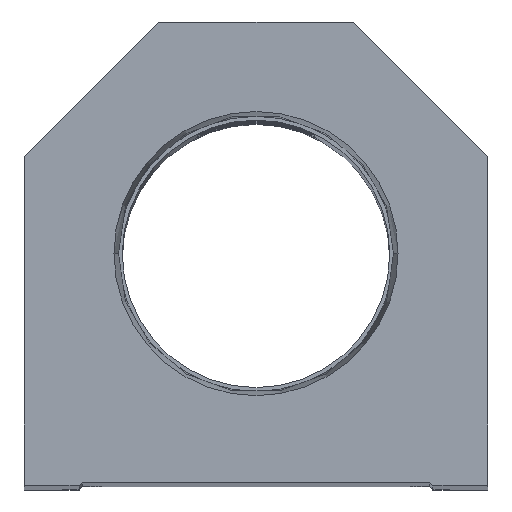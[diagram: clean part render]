
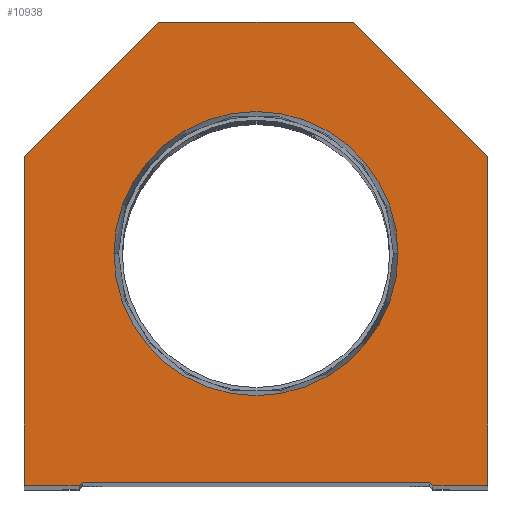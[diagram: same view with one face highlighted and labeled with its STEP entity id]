
A CAD part, top view. The second image highlights one B-rep face of the part: STEP entity #10938.
In plain terms, the highlighted planar face has unit normal (0, 0, 1).
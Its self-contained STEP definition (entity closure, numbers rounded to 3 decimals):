
#318 = DIRECTION ( 'NONE',  ( 0., 0., 1. ) ) ;
#612 = EDGE_CURVE ( 'NONE', #13962, #7568, #10167, .T. ) ;
#783 = CARTESIAN_POINT ( 'NONE',  ( 28.6, 0.5, 0. ) ) ;
#882 = EDGE_CURVE ( 'NONE', #15622, #6065, #17693, .T. ) ;
#1156 = CARTESIAN_POINT ( 'NONE',  ( 23.374, 38.1, 0. ) ) ;
#1219 = EDGE_CURVE ( 'NONE', #16297, #13131, #13249, .T. ) ;
#1503 = EDGE_LOOP ( 'NONE', ( #7364, #13965, #5378, #7070, #8163, #1601, #5861, #8118, #9640, #2906 ) ) ;
#1533 = VERTEX_POINT ( 'NONE', #11238 ) ;
#1601 = ORIENTED_EDGE ( 'NONE', *, *, #2819, .T. ) ;
#1683 = FACE_BOUND ( 'NONE', #4643, .T. ) ;
#1692 = VERTEX_POINT ( 'NONE', #17330 ) ;
#1719 = LINE ( 'NONE', #4746, #2737 ) ;
#1877 = VERTEX_POINT ( 'NONE', #9053 ) ;
#1908 = CARTESIAN_POINT ( 'NONE',  ( 0., 38.1, 0. ) ) ;
#2427 = CARTESIAN_POINT ( 'NONE',  ( 0., 38.1, 0. ) ) ;
#2561 = LINE ( 'NONE', #18032, #10380 ) ;
#2737 = VECTOR ( 'NONE', #7404, 1000. ) ;
#2819 = EDGE_CURVE ( 'NONE', #1533, #17525, #7849, .T. ) ;
#2827 = VERTEX_POINT ( 'NONE', #783 ) ;
#2906 = ORIENTED_EDGE ( 'NONE', *, *, #16645, .T. ) ;
#3194 = DIRECTION ( 'NONE',  ( -0.707, 0.707, 0. ) ) ;
#4086 = DIRECTION ( 'NONE',  ( 0., -1., 0. ) ) ;
#4591 = VECTOR ( 'NONE', #10779, 1000. ) ;
#4643 = EDGE_LOOP ( 'NONE', ( #6689, #5579 ) ) ;
#4746 = CARTESIAN_POINT ( 'NONE',  ( 28.6, 0., 0. ) ) ;
#4895 = CARTESIAN_POINT ( 'NONE',  ( 38.1, 54.1, 0. ) ) ;
#5061 = EDGE_CURVE ( 'NONE', #7568, #2827, #2561, .T. ) ;
#5162 = DIRECTION ( 'NONE',  ( -1., 0., 0. ) ) ;
#5246 = CARTESIAN_POINT ( 'NONE',  ( 16., 76.2, 0. ) ) ;
#5378 = ORIENTED_EDGE ( 'NONE', *, *, #5061, .T. ) ;
#5433 = VECTOR ( 'NONE', #4086, 1000. ) ;
#5539 = CARTESIAN_POINT ( 'NONE',  ( -28.6, 0.5, 0. ) ) ;
#5579 = ORIENTED_EDGE ( 'NONE', *, *, #11907, .F. ) ;
#5637 = AXIS2_PLACEMENT_3D ( 'NONE', #17054, #10137, #15711 ) ;
#5830 = EDGE_CURVE ( 'NONE', #1692, #13962, #17207, .T. ) ;
#5861 = ORIENTED_EDGE ( 'NONE', *, *, #9118, .T. ) ;
#6065 = VERTEX_POINT ( 'NONE', #6957 ) ;
#6153 = DIRECTION ( 'NONE',  ( 0.707, -0.707, 0. ) ) ;
#6226 = AXIS2_PLACEMENT_3D ( 'NONE', #2427, #13605, #16960 ) ;
#6441 = LINE ( 'NONE', #14952, #4591 ) ;
#6487 = CARTESIAN_POINT ( 'NONE',  ( 38.1, 0., 0. ) ) ;
#6689 = ORIENTED_EDGE ( 'NONE', *, *, #1219, .F. ) ;
#6957 = CARTESIAN_POINT ( 'NONE',  ( -16., 76.2, 0. ) ) ;
#7070 = ORIENTED_EDGE ( 'NONE', *, *, #9720, .T. ) ;
#7187 = VECTOR ( 'NONE', #11642, 1000. ) ;
#7248 = CARTESIAN_POINT ( 'NONE',  ( -29.1, 0., 0. ) ) ;
#7275 = FACE_OUTER_BOUND ( 'NONE', #1503, .T. ) ;
#7364 = ORIENTED_EDGE ( 'NONE', *, *, #5830, .T. ) ;
#7404 = DIRECTION ( 'NONE',  ( 1., 0., 0. ) ) ;
#7518 = LINE ( 'NONE', #17016, #10631 ) ;
#7568 = VERTEX_POINT ( 'NONE', #5539 ) ;
#7849 = LINE ( 'NONE', #6487, #8028 ) ;
#8028 = VECTOR ( 'NONE', #17642, 1000. ) ;
#8118 = ORIENTED_EDGE ( 'NONE', *, *, #882, .T. ) ;
#8163 = ORIENTED_EDGE ( 'NONE', *, *, #13323, .T. ) ;
#8288 = VECTOR ( 'NONE', #14299, 1000. ) ;
#8544 = EDGE_CURVE ( 'NONE', #6065, #11910, #6441, .T. ) ;
#9053 = CARTESIAN_POINT ( 'NONE',  ( 29.1, 0., 0. ) ) ;
#9118 = EDGE_CURVE ( 'NONE', #17525, #15622, #14382, .T. ) ;
#9640 = ORIENTED_EDGE ( 'NONE', *, *, #8544, .T. ) ;
#9720 = EDGE_CURVE ( 'NONE', #2827, #1877, #7518, .T. ) ;
#9967 = CARTESIAN_POINT ( 'NONE',  ( -14.55, 14.55, 0. ) ) ;
#10137 = DIRECTION ( 'NONE',  ( 0., 0., 1. ) ) ;
#10167 = LINE ( 'NONE', #9967, #7187 ) ;
#10380 = VECTOR ( 'NONE', #16469, 1000. ) ;
#10631 = VECTOR ( 'NONE', #6153, 1000. ) ;
#10779 = DIRECTION ( 'NONE',  ( -0.707, -0.707, 0. ) ) ;
#10896 = LINE ( 'NONE', #13532, #5433 ) ;
#10938 = ADVANCED_FACE ( 'NONE', ( #1683, #7275 ), #12867, .T. ) ;
#11238 = CARTESIAN_POINT ( 'NONE',  ( 38.1, 0., 0. ) ) ;
#11642 = DIRECTION ( 'NONE',  ( 0.707, 0.707, 0. ) ) ;
#11907 = EDGE_CURVE ( 'NONE', #13131, #16297, #14114, .T. ) ;
#11910 = VERTEX_POINT ( 'NONE', #12516 ) ;
#12070 = VECTOR ( 'NONE', #5162, 1000. ) ;
#12516 = CARTESIAN_POINT ( 'NONE',  ( -38.1, 54.1, 0. ) ) ;
#12867 = PLANE ( 'NONE',  #5637 ) ;
#13090 = VECTOR ( 'NONE', #3194, 1000. ) ;
#13131 = VERTEX_POINT ( 'NONE', #17855 ) ;
#13249 = CIRCLE ( 'NONE', #16179, 23.374 ) ;
#13323 = EDGE_CURVE ( 'NONE', #1877, #1533, #1719, .T. ) ;
#13532 = CARTESIAN_POINT ( 'NONE',  ( -38.1, 0., 0. ) ) ;
#13605 = DIRECTION ( 'NONE',  ( 0., 0., 1. ) ) ;
#13962 = VERTEX_POINT ( 'NONE', #7248 ) ;
#13965 = ORIENTED_EDGE ( 'NONE', *, *, #612, .T. ) ;
#14114 = CIRCLE ( 'NONE', #6226, 23.374 ) ;
#14299 = DIRECTION ( 'NONE',  ( 1., 0., 0. ) ) ;
#14382 = LINE ( 'NONE', #17206, #13090 ) ;
#14564 = DIRECTION ( 'NONE',  ( 1., 0., 0. ) ) ;
#14952 = CARTESIAN_POINT ( 'NONE',  ( -38.1, 54.1, 0. ) ) ;
#15622 = VERTEX_POINT ( 'NONE', #16303 ) ;
#15711 = DIRECTION ( 'NONE',  ( 1., 0., 0. ) ) ;
#15835 = CARTESIAN_POINT ( 'NONE',  ( -28.6, 0., 0. ) ) ;
#16179 = AXIS2_PLACEMENT_3D ( 'NONE', #1908, #318, #14564 ) ;
#16297 = VERTEX_POINT ( 'NONE', #1156 ) ;
#16303 = CARTESIAN_POINT ( 'NONE',  ( 16., 76.2, 0. ) ) ;
#16469 = DIRECTION ( 'NONE',  ( 1., 0., 0. ) ) ;
#16645 = EDGE_CURVE ( 'NONE', #11910, #1692, #10896, .T. ) ;
#16960 = DIRECTION ( 'NONE',  ( 1., 0., 0. ) ) ;
#17016 = CARTESIAN_POINT ( 'NONE',  ( 14.55, 14.55, 0. ) ) ;
#17054 = CARTESIAN_POINT ( 'NONE',  ( 0., 0., 0. ) ) ;
#17206 = CARTESIAN_POINT ( 'NONE',  ( 38.1, 54.1, 0. ) ) ;
#17207 = LINE ( 'NONE', #15835, #8288 ) ;
#17330 = CARTESIAN_POINT ( 'NONE',  ( -38.1, 0., 0. ) ) ;
#17525 = VERTEX_POINT ( 'NONE', #4895 ) ;
#17642 = DIRECTION ( 'NONE',  ( 0., 1., 0. ) ) ;
#17693 = LINE ( 'NONE', #5246, #12070 ) ;
#17855 = CARTESIAN_POINT ( 'NONE',  ( -23.374, 38.1, 0. ) ) ;
#18032 = CARTESIAN_POINT ( 'NONE',  ( -28.6, 0.5, 0. ) ) ;
